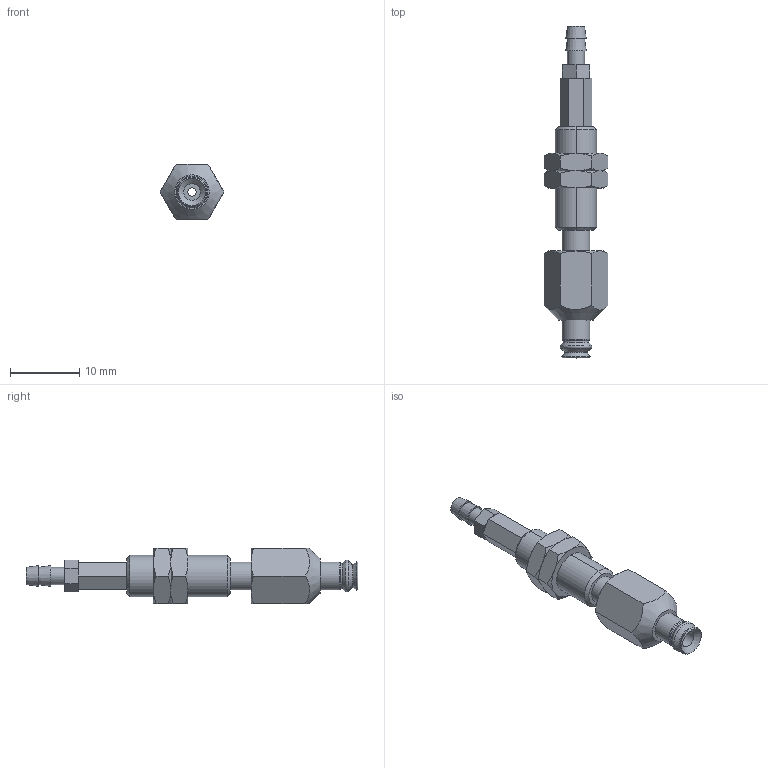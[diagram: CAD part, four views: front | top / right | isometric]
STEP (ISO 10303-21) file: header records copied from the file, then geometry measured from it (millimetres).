
FILE_DESCRIPTION(('STEP AP203'),'1');
FILE_NAME('-T.stp','2025-08-27T07:03:24',(' '),(' '),'Spatial InterOp 3D',' ',' ');
FILE_SCHEMA(('CONFIG_CONTROL_DESIGN'));
Length unit declared in the file: millimetre
Products named in the file (7): BNABPJTS-4-3-※-T; ADAPTER; NAPFTS-2A-3-MBODY; _Nut_1_5A_3_s; _NAPFTS_1_5A_3_FBODY; BPJG-4-※; T (2)
Assembly tree (7 placements, depth 2):
  BNABPJTS-4-3-※-T
    ADAPTER
    NAPFTS-2A-3-MBODY
    _Nut_1_5A_3_s  x2
    _NAPFTS_1_5A_3_FBODY
    BPJG-4-※
    T (2)
Bounding box: 9.24 x 48.1 x 8 mm (x, y, z)
Volume: 1301.3 mm3; surface area: 2004.6 mm2
Topology: 7 solids, 7 shells, 141 faces, 301 edges, 181 vertices
Faces by surface type: plane 57, cone 54, cylinder 21, torus 9
Full cylindrical faces by diameter (mm): 1.2 x3, 2 x2, 2.4 x1, 2.459 x1, 2.5 x1, 3 x3, 4 x2
Entity records: 3214 total; most frequent: CARTESIAN_POINT 581, DIRECTION 494, ORIENTED_EDGE 400, AXIS2_PLACEMENT_3D 213, EDGE_CURVE 200, EDGE_LOOP 168, VERTEX_POINT 138, FACE_OUTER_BOUND 137
